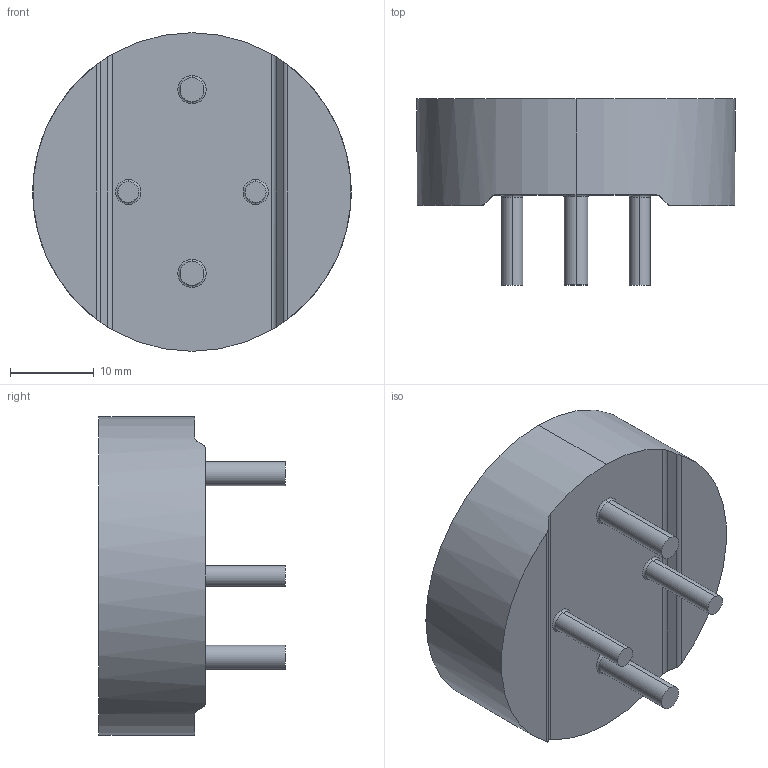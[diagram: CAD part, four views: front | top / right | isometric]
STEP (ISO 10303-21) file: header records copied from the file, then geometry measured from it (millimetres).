
FILE_DESCRIPTION (( 'STEP AP214' ), '1' );
FILE_NAME ('IHTH-1500MZ-5A 4.7uH.STEP', '2025-03-14T19:39:56', ( '' ), ( '' ), 'SwSTEP 2.0', 'SolidWorks 2024', '' );
FILE_SCHEMA (( 'AUTOMOTIVE_DESIGN' ));
Length unit declared in the file: inch
Products named in the file (1): IHTH-1500MZ-5A 4.7uH
Bounding box: 38.1 x 22.28 x 38.1 mm (x, y, z)
Volume: 13822.2 mm3; surface area: 4141.3 mm2
Topology: 1 solids, 1 shells, 209 faces, 535 edges, 354 vertices
Faces by surface type: plane 142, bspline 41, cylinder 18, torus 8
Entity records: 8758 total; most frequent: CARTESIAN_POINT 3912, ORIENTED_EDGE 1070, DIRECTION 827, EDGE_CURVE 535, VECTOR 393, LINE 393, VERTEX_POINT 354, EDGE_LOOP 235
